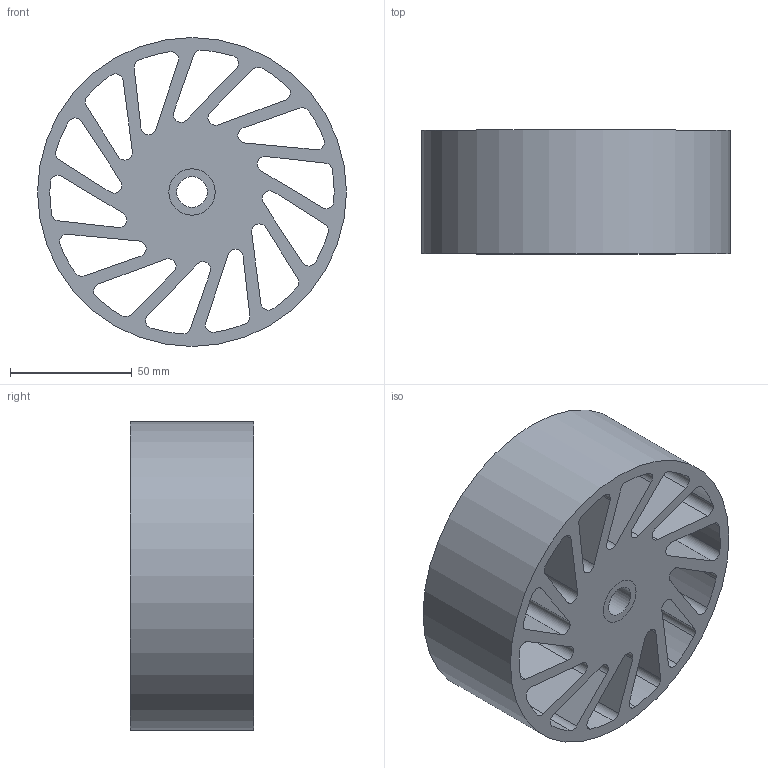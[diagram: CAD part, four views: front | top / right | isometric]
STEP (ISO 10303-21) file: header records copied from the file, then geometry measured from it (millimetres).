
FILE_DESCRIPTION(/* description */ (''),/* implementation_level */ '2;1');
FILE_NAME(/* name */ 'C:\Users\Owner\Desktop\Meridian Stuff\Oilite\NCWOB-500-XXX.stp',/* time_stamp */ '2023-05-22T17:11:53-05:00',/* author */ ('ASG'),/* organization */ ('Meridian Laboratory '),/* preprocessor_version */ 'ST-DEVELOPER v19',/* originating_system */ 'Autodesk Inventor 2023',/* authorisation */ '');
FILE_SCHEMA (('AUTOMOTIVE_DESIGN { 1 0 10303 214 3 1 1 }'));
Length unit declared in the file: inch
Products named in the file (1): NCWOB-440-XXX
Bounding box: 127 x 50.8 x 127 mm (x, y, z)
Volume: 354360.5 mm3; surface area: 103835.4 mm2
Topology: 2 solids, 2 shells, 92 faces, 264 edges, 176 vertices
Faces by surface type: cylinder 60, plane 32
Full cylindrical faces by diameter (mm): 12.738 x1, 19.05 x2, 127 x1
Entity records: 3285 total; most frequent: DIRECTION 570, CARTESIAN_POINT 533, ORIENTED_EDGE 528, EDGE_CURVE 264, AXIS2_PLACEMENT_3D 213, VERTEX_POINT 176, LINE 144, VECTOR 144
